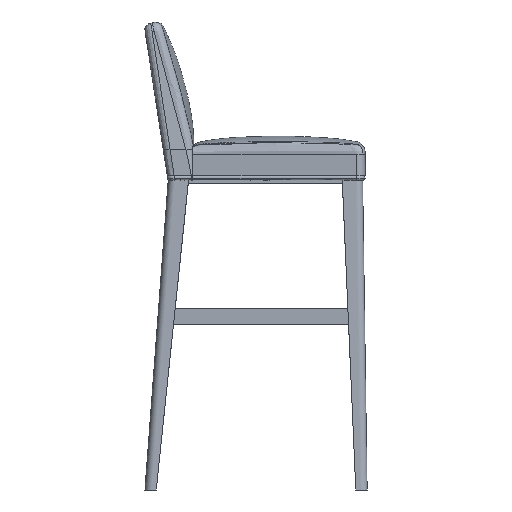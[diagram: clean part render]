
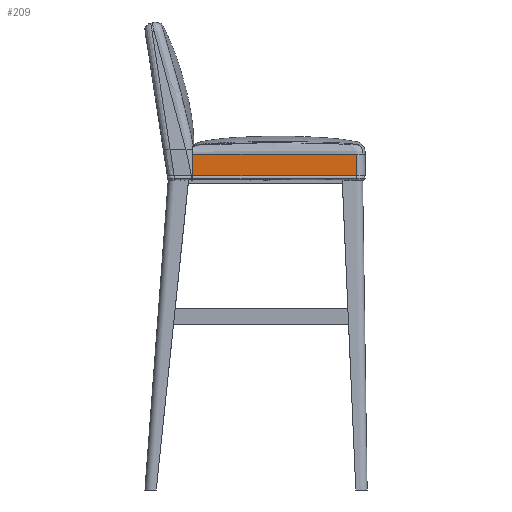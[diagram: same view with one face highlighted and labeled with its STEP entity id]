
A CAD part, left-side view. The second image highlights one B-rep face of the part: STEP entity #209.
In plain terms, the highlighted planar face has unit normal (-0.998, 0.061, 0).
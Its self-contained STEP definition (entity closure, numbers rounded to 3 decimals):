
#67=(
BOUNDED_CURVE()
B_SPLINE_CURVE(1,(#14624,#14625),.UNSPECIFIED.,.F.,.F.)
B_SPLINE_CURVE_WITH_KNOTS((2,2),(0.,43.),.UNSPECIFIED.)
CURVE()
GEOMETRIC_REPRESENTATION_ITEM()
RATIONAL_B_SPLINE_CURVE((1.,1.))
REPRESENTATION_ITEM('')
);
#209=ADVANCED_FACE('',(#328),#1881,.T.);
#328=FACE_OUTER_BOUND('',#455,.T.);
#455=EDGE_LOOP('',(#891,#892,#893,#894));
#891=ORIENTED_EDGE('',*,*,#1279,.F.);
#892=ORIENTED_EDGE('',*,*,#1280,.T.);
#893=ORIENTED_EDGE('',*,*,#1281,.F.);
#894=ORIENTED_EDGE('',*,*,#1277,.F.);
#1277=EDGE_CURVE('',#1729,#1735,#67,.T.);
#1279=EDGE_CURVE('',#1728,#1729,#1528,.T.);
#1280=EDGE_CURVE('',#1728,#1736,#1529,.T.);
#1281=EDGE_CURVE('',#1735,#1736,#1530,.T.);
#1528=B_SPLINE_CURVE_WITH_KNOTS('',1,(#14629,#14630),.UNSPECIFIED.,.F.,
 .F.,(2,2),(-362.172,0.),.UNSPECIFIED.);
#1529=B_SPLINE_CURVE_WITH_KNOTS('',1,(#14631,#14632),.UNSPECIFIED.,.F.,
 .F.,(2,2),(0.,43.),.UNSPECIFIED.);
#1530=B_SPLINE_CURVE_WITH_KNOTS('',1,(#14633,#14634),.UNSPECIFIED.,.F.,
 .F.,(2,2),(-362.172,0.),.UNSPECIFIED.);
#1728=VERTEX_POINT('',#14164);
#1729=VERTEX_POINT('',#14165);
#1735=VERTEX_POINT('',#14171);
#1736=VERTEX_POINT('',#14172);
#1881=PLANE('',#1953);
#1953=AXIS2_PLACEMENT_3D('',#7188,#2009,$);
#2009=DIRECTION('',(-0.998,0.061,0.));
#7188=CARTESIAN_POINT('',(-175.737,420.763,688.189));
#14164=CARTESIAN_POINT('',(-177.943,384.6,740.973));
#14165=CARTESIAN_POINT('',(-200.,23.1,740.973));
#14171=CARTESIAN_POINT('',(-200.,23.1,693.));
#14172=CARTESIAN_POINT('',(-177.943,384.6,693.));
#14624=CARTESIAN_POINT('',(-200.,23.1,740.973));
#14625=CARTESIAN_POINT('',(-200.,23.1,693.));
#14629=CARTESIAN_POINT('',(-177.943,384.6,740.973));
#14630=CARTESIAN_POINT('',(-200.,23.1,740.973));
#14631=CARTESIAN_POINT('',(-177.943,384.6,740.973));
#14632=CARTESIAN_POINT('',(-177.943,384.6,693.));
#14633=CARTESIAN_POINT('',(-200.,23.1,693.));
#14634=CARTESIAN_POINT('',(-177.943,384.6,693.));
